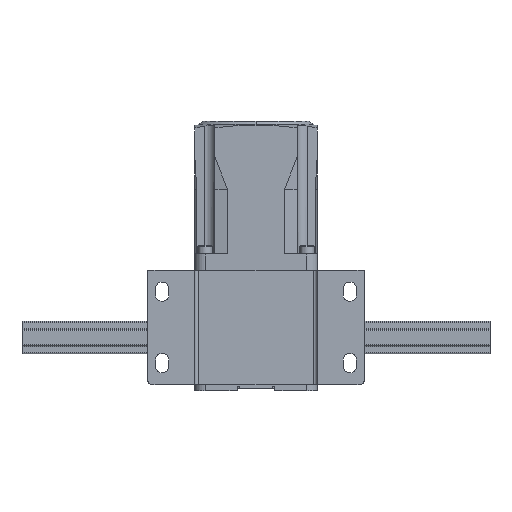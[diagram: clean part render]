
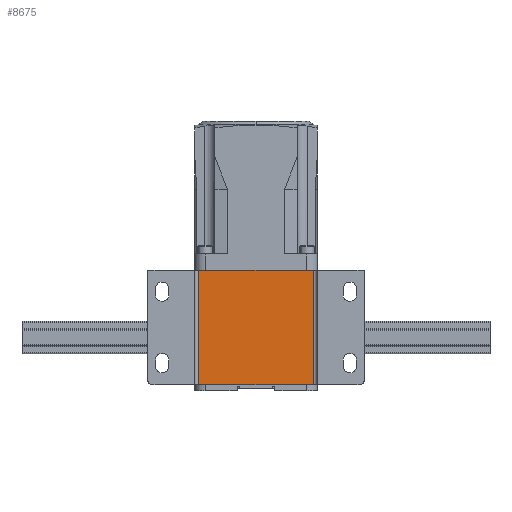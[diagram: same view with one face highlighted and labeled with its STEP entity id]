
A CAD part, front view. The second image highlights one B-rep face of the part: STEP entity #8675.
In plain terms, the highlighted planar face has unit normal (0, -1, 0).
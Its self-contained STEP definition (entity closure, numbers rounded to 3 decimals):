
#408 = LINE ( 'NONE', #5617, #2875 ) ;
#1347 = EDGE_CURVE ( 'NONE', #5797, #6820, #5610, .T. ) ;
#1841 = CARTESIAN_POINT ( 'NONE',  ( 28., -32.9, 0. ) ) ;
#2672 = DIRECTION ( 'NONE',  ( 0., 0., 1. ) ) ;
#2875 = VECTOR ( 'NONE', #3985, 1000. ) ;
#3118 = FACE_OUTER_BOUND ( 'NONE', #3289, .T. ) ;
#3252 = ORIENTED_EDGE ( 'NONE', *, *, #1347, .F. ) ;
#3289 = EDGE_LOOP ( 'NONE', ( #3252, #3794, #6660, #9962 ) ) ;
#3602 = DIRECTION ( 'NONE',  ( 1., 0., 0. ) ) ;
#3794 = ORIENTED_EDGE ( 'NONE', *, *, #4353, .T. ) ;
#3838 = CARTESIAN_POINT ( 'NONE',  ( -30., -32.9, -39.5 ) ) ;
#3859 = PLANE ( 'NONE',  #4458 ) ;
#3951 = VECTOR ( 'NONE', #2672, 1000. ) ;
#3985 = DIRECTION ( 'NONE',  ( -1., 0., 0. ) ) ;
#4353 = EDGE_CURVE ( 'NONE', #5797, #9023, #9550, .T. ) ;
#4458 = AXIS2_PLACEMENT_3D ( 'NONE', #9531, #10356, #5485 ) ;
#4744 = CARTESIAN_POINT ( 'NONE',  ( -28., -32.9, 0. ) ) ;
#5231 = EDGE_CURVE ( 'NONE', #8926, #9023, #408, .T. ) ;
#5485 = DIRECTION ( 'NONE',  ( 1., 0., 0. ) ) ;
#5559 = DIRECTION ( 'NONE',  ( 0., 0., -1. ) ) ;
#5610 = LINE ( 'NONE', #3838, #5881 ) ;
#5617 = CARTESIAN_POINT ( 'NONE',  ( -30., -32.9, -95.5 ) ) ;
#5797 = VERTEX_POINT ( 'NONE', #6584 ) ;
#5864 = LINE ( 'NONE', #1841, #3951 ) ;
#5881 = VECTOR ( 'NONE', #3602, 1000. ) ;
#6584 = CARTESIAN_POINT ( 'NONE',  ( -28., -32.9, -39.5 ) ) ;
#6660 = ORIENTED_EDGE ( 'NONE', *, *, #5231, .F. ) ;
#6817 = CARTESIAN_POINT ( 'NONE',  ( 28., -32.9, -39.5 ) ) ;
#6820 = VERTEX_POINT ( 'NONE', #6817 ) ;
#7348 = VECTOR ( 'NONE', #5559, 1000. ) ;
#7361 = CARTESIAN_POINT ( 'NONE',  ( 28., -32.9, -95.5 ) ) ;
#8675 = ADVANCED_FACE ( 'NONE', ( #3118 ), #3859, .T. ) ;
#8926 = VERTEX_POINT ( 'NONE', #7361 ) ;
#9023 = VERTEX_POINT ( 'NONE', #9971 ) ;
#9531 = CARTESIAN_POINT ( 'NONE',  ( 0., -32.9, 0. ) ) ;
#9550 = LINE ( 'NONE', #4744, #7348 ) ;
#9843 = EDGE_CURVE ( 'NONE', #8926, #6820, #5864, .T. ) ;
#9962 = ORIENTED_EDGE ( 'NONE', *, *, #9843, .T. ) ;
#9971 = CARTESIAN_POINT ( 'NONE',  ( -28., -32.9, -95.5 ) ) ;
#10356 = DIRECTION ( 'NONE',  ( 0., -1., 0. ) ) ;
